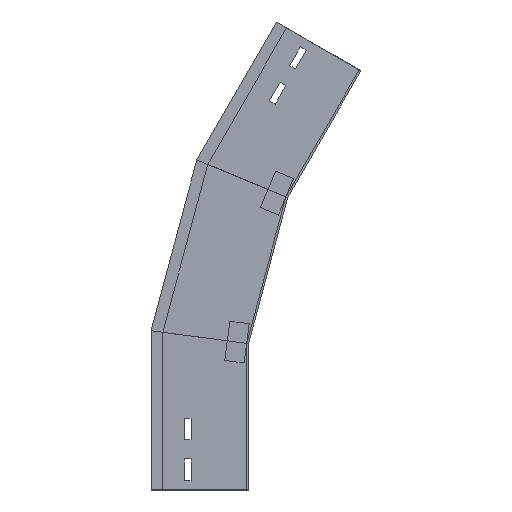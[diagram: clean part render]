
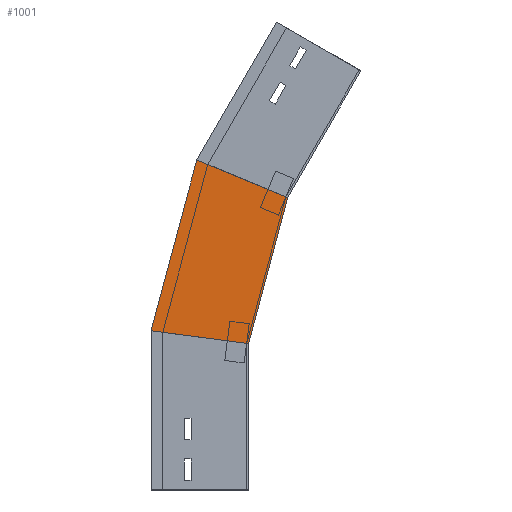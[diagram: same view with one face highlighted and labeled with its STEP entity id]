
A CAD part, left-side view. The second image highlights one B-rep face of the part: STEP entity #1001.
In plain terms, the highlighted planar face has unit normal (-1, 0, 0) as drawn and (1, 0, 0) by its records, which use the part's own axes.
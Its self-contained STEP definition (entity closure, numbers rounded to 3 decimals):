
#13 = VERTEX_POINT ( 'NONE', #423 ) ;
#79 = LINE ( 'NONE', #1009, #874 ) ;
#95 = EDGE_CURVE ( 'NONE', #326, #96, #833, .T. ) ;
#96 = VERTEX_POINT ( 'NONE', #1426 ) ;
#190 = LINE ( 'NONE', #200, #514 ) ;
#200 = CARTESIAN_POINT ( 'NONE',  ( 0., -60.567, 291.248 ) ) ;
#205 = ORIENTED_EDGE ( 'NONE', *, *, #95, .F. ) ;
#219 = VERTEX_POINT ( 'NONE', #1234 ) ;
#256 = CARTESIAN_POINT ( 'NONE',  ( 0., 100., 163.165 ) ) ;
#273 = DIRECTION ( 'NONE',  ( 0., -0.259, 0.966 ) ) ;
#326 = VERTEX_POINT ( 'NONE', #256 ) ;
#329 = DIRECTION ( 'NONE',  ( 1., 0., 0. ) ) ;
#423 = CARTESIAN_POINT ( 'NONE',  ( 0., -40.117, 299.719 ) ) ;
#445 = EDGE_CURVE ( 'NONE', #219, #13, #190, .T. ) ;
#447 = DIRECTION ( 'NONE',  ( 0., -0.259, 0.966 ) ) ;
#483 = DIRECTION ( 'NONE',  ( 0., -0.991, -0.131 ) ) ;
#490 = VECTOR ( 'NONE', #483, 1000. ) ;
#514 = VECTOR ( 'NONE', #1005, 1000. ) ;
#602 = CARTESIAN_POINT ( 'NONE',  ( 0., -19.411, 147.444 ) ) ;
#609 = ORIENTED_EDGE ( 'NONE', *, *, #812, .F. ) ;
#692 = VECTOR ( 'NONE', #273, 1000. ) ;
#812 = EDGE_CURVE ( 'NONE', #96, #13, #853, .T. ) ;
#833 = LINE ( 'NONE', #602, #490 ) ;
#853 = LINE ( 'NONE', #1312, #692 ) ;
#874 = VECTOR ( 'NONE', #447, 1000. ) ;
#919 = PLANE ( 'NONE',  #1385 ) ;
#935 = EDGE_CURVE ( 'NONE', #326, #219, #79, .T. ) ;
#938 = CARTESIAN_POINT ( 'NONE',  ( 0., 3.774, 135.915 ) ) ;
#960 = ORIENTED_EDGE ( 'NONE', *, *, #445, .T. ) ;
#1001 = ADVANCED_FACE ( 'NONE', ( #1156 ), #919, .T. ) ;
#1005 = DIRECTION ( 'NONE',  ( 0., -0.924, -0.383 ) ) ;
#1009 = CARTESIAN_POINT ( 'NONE',  ( 0., 100.367, 161.797 ) ) ;
#1093 = ORIENTED_EDGE ( 'NONE', *, *, #935, .T. ) ;
#1137 = DIRECTION ( 'NONE',  ( 0., 0., -1. ) ) ;
#1156 = FACE_OUTER_BOUND ( 'NONE', #1350, .T. ) ;
#1234 = CARTESIAN_POINT ( 'NONE',  ( 0., 53.068, 338.317 ) ) ;
#1312 = CARTESIAN_POINT ( 'NONE',  ( 0., 3.774, 135.915 ) ) ;
#1350 = EDGE_LOOP ( 'NONE', ( #1093, #960, #609, #205 ) ) ;
#1385 = AXIS2_PLACEMENT_3D ( 'NONE', #938, #329, #1137 ) ;
#1426 = CARTESIAN_POINT ( 'NONE',  ( 0., 0., 150. ) ) ;
